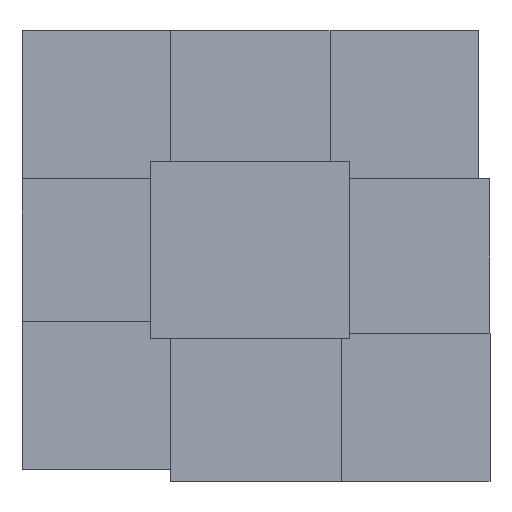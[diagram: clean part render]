
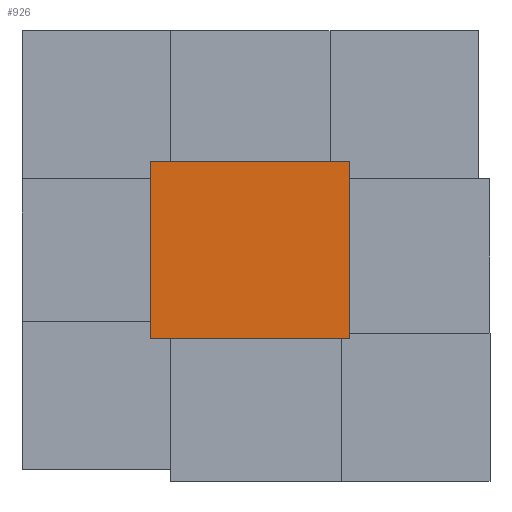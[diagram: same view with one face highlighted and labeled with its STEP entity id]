
A CAD part, left-side view. The second image highlights one B-rep face of the part: STEP entity #926.
In plain terms, the highlighted planar face has unit normal (-1, 0, 0).
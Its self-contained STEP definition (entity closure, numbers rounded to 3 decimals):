
#808=CARTESIAN_POINT('Line Origine',(0.,0.,60.)) ;
#812=CARTESIAN_POINT('Vertex',(0.,0.,0.)) ;
#814=CARTESIAN_POINT('Vertex',(0.,0.,120.)) ;
#883=CARTESIAN_POINT('Vertex',(0.,135.,0.)) ;
#886=CARTESIAN_POINT('Line Origine',(0.,135.,60.)) ;
#890=CARTESIAN_POINT('Vertex',(0.,135.,120.)) ;
#905=CARTESIAN_POINT('Axis2P3D Location',(0.,135.,0.)) ;
#910=CARTESIAN_POINT('Line Origine',(0.,67.5,0.)) ;
#915=CARTESIAN_POINT('Line Origine',(0.,67.5,120.)) ;
#809=DIRECTION('Vector Direction',(0.,0.,1.)) ;
#887=DIRECTION('Vector Direction',(0.,0.,1.)) ;
#906=DIRECTION('Axis2P3D Direction',(-1.,0.,0.)) ;
#907=DIRECTION('Axis2P3D XDirection',(0.,-1.,0.)) ;
#911=DIRECTION('Vector Direction',(0.,-1.,0.)) ;
#916=DIRECTION('Vector Direction',(0.,-1.,0.)) ;
#908=AXIS2_PLACEMENT_3D('Plane Axis2P3D',#905,#906,#907) ;
#921=ORIENTED_EDGE('',*,*,#892,.F.) ;
#922=ORIENTED_EDGE('',*,*,#914,.T.) ;
#923=ORIENTED_EDGE('',*,*,#816,.T.) ;
#924=ORIENTED_EDGE('',*,*,#919,.F.) ;
#810=VECTOR('Line Direction',#809,1.) ;
#888=VECTOR('Line Direction',#887,1.) ;
#912=VECTOR('Line Direction',#911,1.) ;
#917=VECTOR('Line Direction',#916,1.) ;
#926=ADVANCED_FACE('Body.2-molde-superior',(#925),#909,.T.) ;
#816=EDGE_CURVE('',#813,#815,#811,.T.) ;
#892=EDGE_CURVE('',#884,#891,#889,.T.) ;
#914=EDGE_CURVE('',#884,#813,#913,.T.) ;
#919=EDGE_CURVE('',#891,#815,#918,.T.) ;
#920=EDGE_LOOP('',(#921,#922,#923,#924)) ;
#925=FACE_OUTER_BOUND('',#920,.T.) ;
#811=LINE('Line',#808,#810) ;
#889=LINE('Line',#886,#888) ;
#913=LINE('Line',#910,#912) ;
#918=LINE('Line',#915,#917) ;
#909=PLANE('',#908) ;
#813=VERTEX_POINT('',#812) ;
#815=VERTEX_POINT('',#814) ;
#884=VERTEX_POINT('',#883) ;
#891=VERTEX_POINT('',#890) ;
